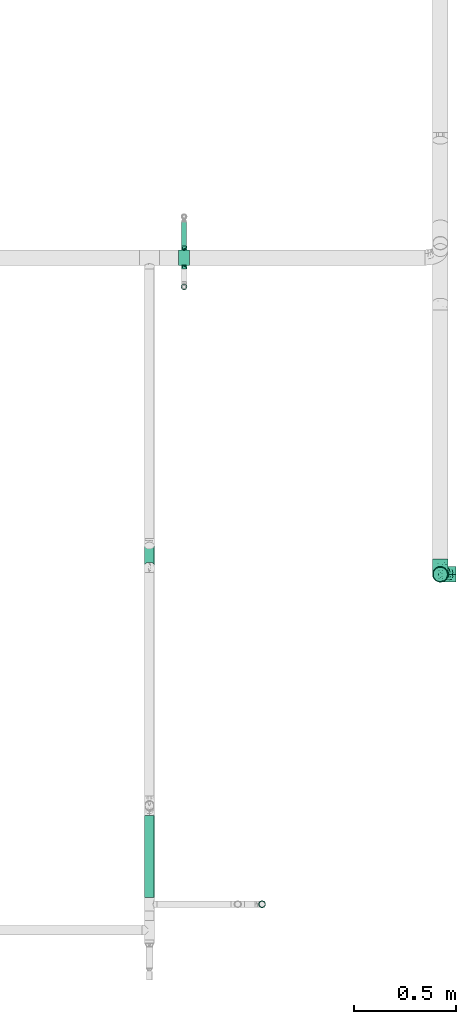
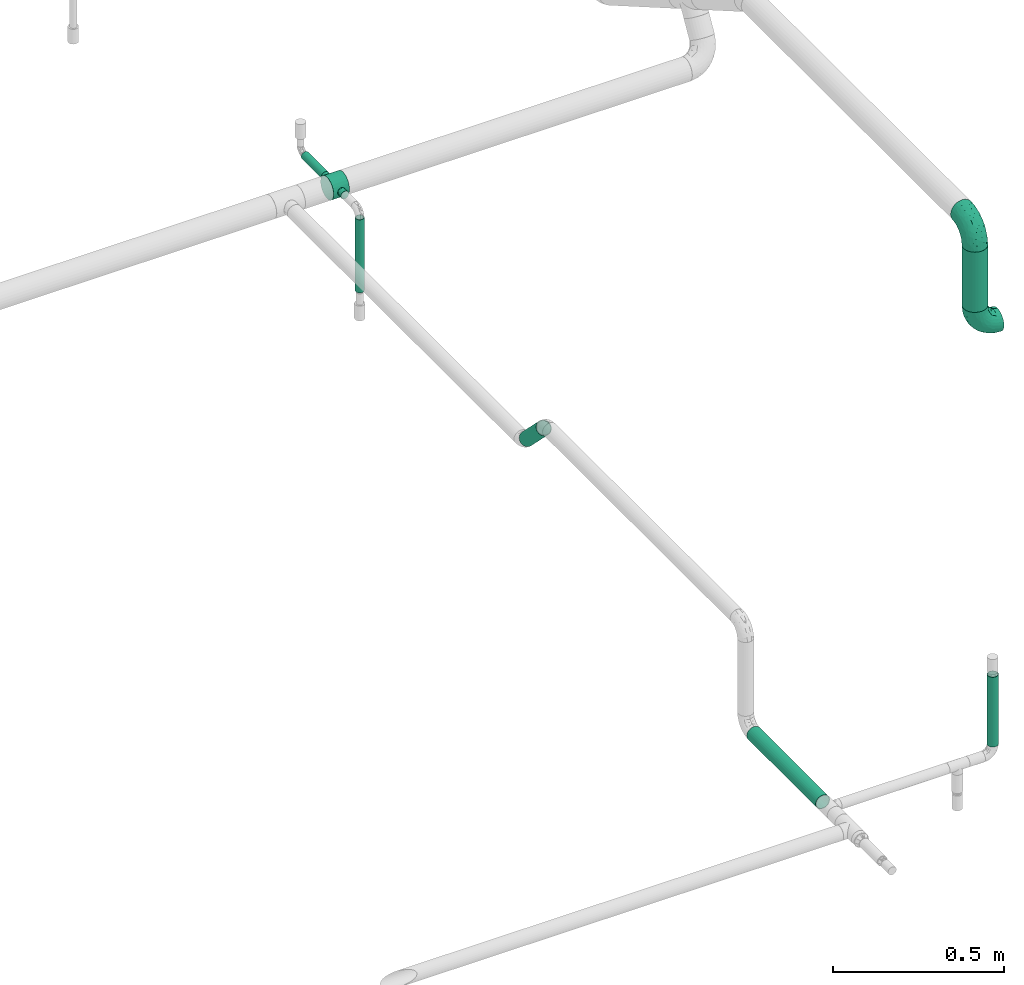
# One storey, part 11 of 51: 6 flow segments, 3 flow fittings.
"""IFC2X3 building model written with IfcOpenShell, lengths in millimetres."""

import ifcopenshell
import ifcopenshell.guid

model = None  # the IFC model being written
_history = None  # IfcOwnerHistory: only IFC2X3 demands one
_inside = {}  # id of a spatial element -> (the spatial element, [elements in it])
_under = {}  # id of a project, library or spatial element -> (it, [spatial elements below it])
_declared = {}  # id of a project -> (the project, [libraries it declares])
_typed = {}  # id of a type object -> (the type object, [elements of that type])
_made_of = {}  # id of a material, layer set ... -> (it, [elements and type objects made of it])


def new_model(schema):
    """Start an empty IFC model of exactly this schema.

    Asked for "IFC4X3", IfcOpenShell would pick the latest addendum, in which some entities
    have other attributes; the version numbers below select the first issue.
    IFC2X3 requires an IfcOwnerHistory on every rooted entity: one is made here for all.
    """
    global model, _history
    if schema == "IFC4X3":
        model = ifcopenshell.file(schema_version=(4, 3, 0, 0))
    else:
        model = ifcopenshell.file(schema=schema)
    _inside.clear()
    _under.clear()
    _declared.clear()
    _typed.clear()
    _made_of.clear()
    _history = None
    if model.schema == "IFC2X3":
        org = make("IfcOrganization", Name="unknown")
        user = make(
            "IfcPersonAndOrganization",
            ThePerson=make("IfcPerson", FamilyName="unknown"),
            TheOrganization=org,
        )
        app = make(
            "IfcApplication",
            ApplicationDeveloper=org,
            Version="unknown",
            ApplicationFullName="unknown",
            ApplicationIdentifier="unknown",
        )
        _history = make(
            "IfcOwnerHistory",
            OwningUser=user,
            OwningApplication=app,
            ChangeAction="ADDED",
            CreationDate=0,
        )
    return model


def make(cls, **values):
    """One entity of the class cls with the attributes given. An attribute that is None is left unset."""
    return model.create_entity(
        cls, **{name: value for name, value in values.items() if value is not None}
    )


def entity(cls, *values):
    """Any entity or typed value of the class cls, its attributes in the order of the schema. None: left unset."""
    e = model.create_entity(cls)
    for i, value in enumerate(values):
        if value is not None:
            e[i] = value
    return e


def rooted(cls, **values):
    """An entity with a GlobalId (a new one), such as an element, a storey or a relation."""
    return make(cls, GlobalId=ifcopenshell.guid.new(), OwnerHistory=_history, **values)


def si_unit(unit_type, name, prefix=None):
    """IfcSIUnit, for example si_unit("LENGTHUNIT", "METRE", prefix="MILLI")."""
    return make("IfcSIUnit", UnitType=unit_type, Prefix=prefix, Name=name)


def converted_unit(unit_type, name, factor, base, dimensions=None, offset=None):
    """IfcConversionBasedUnit, such as the inch: factor (a typed value) times the base unit."""
    return make(
        "IfcConversionBasedUnit"
        if offset is None
        else "IfcConversionBasedUnitWithOffset",
        ConversionOffset=offset,
        Dimensions=None
        if dimensions is None
        else entity("IfcDimensionalExponents", *dimensions),
        UnitType=unit_type,
        Name=name,
        ConversionFactor=make(
            "IfcMeasureWithUnit", ValueComponent=factor, UnitComponent=base
        ),
    )


def derived_unit(unit_type, elements):
    """IfcDerivedUnit: a product of units, each with its exponent."""
    return make(
        "IfcDerivedUnit",
        Elements=[
            make("IfcDerivedUnitElement", Unit=unit, Exponent=power)
            for unit, power in elements
        ],
        UnitType=unit_type,
    )


def assignment(units):
    """IfcUnitAssignment: the units of a project."""
    return None if units is None else make("IfcUnitAssignment", Units=units)


def point(xyz):
    """IfcCartesianPoint."""
    return None if xyz is None else make("IfcCartesianPoint", Coordinates=xyz)


def direction(xyz):
    """IfcDirection."""
    return None if xyz is None else make("IfcDirection", DirectionRatios=xyz)


def frame(location, z_axis=None, x_axis=None):
    """IfcAxis2Placement3D, a coordinate frame: its origin and axes. An axis left out is left unset."""
    return make(
        "IfcAxis2Placement3D",
        Location=point(location),
        Axis=direction(z_axis),
        RefDirection=direction(x_axis),
    )


def frame_2d(location, x_axis=None):
    """IfcAxis2Placement2D, a coordinate frame in the plane: its origin and x axis."""
    return make(
        "IfcAxis2Placement2D", Location=point(location), RefDirection=direction(x_axis)
    )


def origin_with_axes():
    """The frame at (0, 0, 0) with the z axis (0, 0, 1) and the x axis (1, 0, 0) written out."""
    return frame((0.0, 0.0, 0.0), z_axis=(0.0, 0.0, 1.0), x_axis=(1.0, 0.0, 0.0))


def origin_2d_with_axis():
    """The frame at (0, 0) in the plane with the x axis (1, 0) written out."""
    return frame_2d((0.0, 0.0), x_axis=(1.0, 0.0))


def place(relative_to, where):
    """IfcLocalPlacement: puts the frame where relative to a parent placement (None: the world)."""
    return make(
        "IfcLocalPlacement", PlacementRelTo=relative_to, RelativePlacement=where
    )


def context(
    kind, dimensions, precision=None, world=None, true_north=None, identifier=None
):
    """IfcGeometricRepresentationContext, for example the 3D "Model" context."""
    return make(
        "IfcGeometricRepresentationContext",
        ContextIdentifier=identifier,
        ContextType=kind,
        CoordinateSpaceDimension=dimensions,
        Precision=precision,
        WorldCoordinateSystem=world,
        TrueNorth=true_north,
    )


def subcontext(parent, identifier, kind, view, scale=None):
    """IfcGeometricRepresentationSubContext, for example "Body" below "Model"."""
    return make(
        "IfcGeometricRepresentationSubContext",
        ContextIdentifier=identifier,
        ContextType=kind,
        ParentContext=parent,
        TargetScale=scale,
        TargetView=view,
    )


def project(units=None, contexts=None):
    """IfcProject with its units and contexts."""
    return rooted(
        "IfcProject",
        Name="project",
        RepresentationContexts=contexts,
        UnitsInContext=assignment(units),
    )


def spatial(cls, under=None, at=None, **own):
    """A site, building, storey or space (cls), placed at a placement, below another one or the project."""
    s = rooted(cls, ObjectPlacement=at, **own)
    if under is not None:
        _under.setdefault(under.id(), (under, []))[1].append(s)
    return s


def profile(cls, at=None, kind="AREA", **sizes):
    """A parametric profile (cls). Its sizes go by their IFC names, for example OverallWidth=200.0."""
    return make(cls, ProfileType=kind, Position=at, **sizes)


def hollow_circle(**sizes):
    """IfcCircleHollowProfileDef."""
    return profile("IfcCircleHollowProfileDef", **sizes)


def extrude(swept, where, along, depth):
    """IfcExtrudedAreaSolid: the profile swept, set in the frame where, extruded along a direction by depth."""
    return make(
        "IfcExtrudedAreaSolid",
        SweptArea=swept,
        Position=where,
        ExtrudedDirection=direction(along),
        Depth=depth,
    )


def faces_of(points, faces, orient=None, outer=None):
    """IfcFace entities. A face is a list of loops; a loop is a list of indices into points, from 0.

    orient and outer hold one flag for each loop. By default every Orientation is true, the
    first loop of a face is its IfcFaceOuterBound and the others are IfcFaceBound.
    """
    made = []
    for i, loops in enumerate(faces):
        bounds = []
        for j, loop in enumerate(loops):
            is_outer = j == 0 if outer is None else outer[i][j]
            bounds.append(
                make(
                    "IfcFaceOuterBound" if is_outer else "IfcFaceBound",
                    Bound=make("IfcPolyLoop", Polygon=[points[k] for k in loop]),
                    Orientation=True if orient is None else orient[i][j],
                )
            )
        made.append(make("IfcFace", Bounds=bounds))
    return made


def open_shell(faces, orient=None, outer=None):
    """The faces of one IfcOpenShell. surface_model builds it on its shared points."""
    return ("IfcOpenShell", faces, orient, outer)


def surface_model(cls, points, shells):
    """IfcFaceBasedSurfaceModel or IfcShellBasedSurfaceModel (cls): surfaces that need not close."""
    shared = [point(p) for p in points]
    made = [make(c, CfsFaces=faces_of(shared, fs, o, b)) for c, fs, o, b in shells]
    if cls == "IfcFaceBasedSurfaceModel":
        return make(cls, FbsmFaces=made)
    return make(cls, SbsmBoundary=made)


def shape(context_of_items, identifier, shape_type, items):
    """IfcShapeRepresentation: the items that make up one representation, for example the "Body"."""
    return make(
        "IfcShapeRepresentation",
        ContextOfItems=context_of_items,
        RepresentationIdentifier=identifier,
        RepresentationType=shape_type,
        Items=items,
    )


def source(mapping_origin, context_of_items, identifier, shape_type, items):
    """IfcRepresentationMap: a shape defined once, which mapped items show again and again."""
    return make(
        "IfcRepresentationMap",
        MappingOrigin=mapping_origin,
        MappedRepresentation=shape(context_of_items, identifier, shape_type, items),
    )


def transform(
    local_origin,
    x_axis=None,
    y_axis=None,
    z_axis=None,
    scale=None,
    scale2=None,
    scale3=None,
    uniform=True,
):
    """IfcCartesianTransformationOperator3D, or its non-uniform kind. x_axis, y_axis, z_axis: its Axis1, 2, 3."""
    if uniform:
        return make(
            "IfcCartesianTransformationOperator3D",
            Axis1=direction(x_axis),
            Axis2=direction(y_axis),
            LocalOrigin=point(local_origin),
            Scale=scale,
            Axis3=direction(z_axis),
        )
    return make(
        "IfcCartesianTransformationOperator3DnonUniform",
        Axis1=direction(x_axis),
        Axis2=direction(y_axis),
        LocalOrigin=point(local_origin),
        Scale=scale,
        Axis3=direction(z_axis),
        Scale2=scale2,
        Scale3=scale3,
    )


def mapped(mapping_source, mapping_target):
    """IfcMappedItem: shows the shape of a source again, moved by a transform."""
    return make(
        "IfcMappedItem", MappingSource=mapping_source, MappingTarget=mapping_target
    )


def made_of(thing, what):
    """Note that an element or type object is made of a material, layer set ...; save() writes the relation."""
    if what is not None:
        _made_of.setdefault(what.id(), (what, []))[1].append(thing)
    return thing


def type_object(cls, material=None, **own):
    """A type object (cls), such as IfcWallType, which elements share."""
    return made_of(rooted(cls, **own), material)


def element(
    cls,
    number,
    at=None,
    inside=None,
    cuts=None,
    type_object=None,
    material=None,
    context=None,
    identifier="Body",
    shape_type=None,
    held_by="IfcProductDefinitionShape",
    body=None,
    shapes=None,
    **own,
):
    """One element of the class cls, such as IfcWall. Its Tag is "e" and its number.

    at: its placement. inside: the storey or other place that contains it. cuts: it is an
    opening in that element (IfcRelVoidsElement). A single representation is given by context,
    identifier, shape_type and body (its items); several are given by shapes. held_by: the class
    of the entity that holds the representations. save() writes the other relations.
    """
    e = rooted(cls, Tag="e%d" % number, ObjectPlacement=at, **own)
    if body is not None:
        shapes = [shape(context, identifier, shape_type, body)]
    if shapes is not None:
        e.Representation = make(held_by, Representations=shapes)
    if inside is not None:
        _inside.setdefault(inside.id(), (inside, []))[1].append(e)
    if cuts is not None:
        rooted(
            "IfcRelVoidsElement", RelatingBuildingElement=cuts, RelatedOpeningElement=e
        )
    if type_object is not None:
        _typed.setdefault(type_object.id(), (type_object, []))[1].append(e)
    return made_of(e, material)


def aggregate(whole, parts):
    """IfcRelAggregates: a whole, such as a stair, and the parts it consists of."""
    return rooted("IfcRelAggregates", RelatingObject=whole, RelatedObjects=parts)


def save(model, path):
    """Write the relations noted so far, then the file.

    IfcRelAggregates (storeys below a building ...), IfcRelContainedInSpatialStructure (elements
    in a storey), IfcRelDefinesByType, IfcRelAssociatesMaterial and IfcRelDeclares: one each for
    every whole, place, type object, material and project.
    """
    for whole, parts in _under.values():
        aggregate(whole, parts)
    for where, things in _inside.values():
        rooted(
            "IfcRelContainedInSpatialStructure",
            RelatedElements=things,
            RelatingStructure=where,
        )
    for kind, things in _typed.values():
        rooted("IfcRelDefinesByType", RelatedObjects=things, RelatingType=kind)
    for what, things in _made_of.values():
        rooted("IfcRelAssociatesMaterial", RelatedObjects=things, RelatingMaterial=what)
    for by, libraries in _declared.values():
        rooted("IfcRelDeclares", RelatingContext=by, RelatedDefinitions=libraries)
    model.write(path)


model = new_model("IFC2X3")

# Units and contexts
model_context = context("Model", 3, precision=0.01, world=frame((0.0, 4.29681676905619e-09, 0.0)), true_north=direction((4.01073788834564e-13, 1.0)))
plan_context = context("Plan", 3, precision=0.01, world=frame((0.0, 4.29681676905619e-09, 0.0)), true_north=direction((4.01073788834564e-13, 1.0)))
body_context = subcontext(model_context, "Body", "Model", "MODEL_VIEW")
ifc_project = project(units=[converted_unit("PLANEANGLEUNIT", "DEGREE", entity("IfcPositiveLengthMeasure", 0.0174532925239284), si_unit("PLANEANGLEUNIT", "RADIAN"), dimensions=[0, 0, 0, 0, 0, 0, 0]), si_unit("AREAUNIT", "SQUARE_METRE"), si_unit("LENGTHUNIT", "METRE", prefix="MILLI"), si_unit("MASSUNIT", "GRAM", prefix="KILO"), si_unit("POWERUNIT", "WATT"), si_unit("PRESSUREUNIT", "PASCAL"), si_unit("FORCEUNIT", "NEWTON", prefix="KILO"), si_unit("ELECTRICVOLTAGEUNIT", "VOLT"), si_unit("ELECTRICCURRENTUNIT", "AMPERE"), si_unit("THERMODYNAMICTEMPERATUREUNIT", "DEGREE_CELSIUS"), si_unit("TIMEUNIT", "SECOND"), si_unit("VOLUMEUNIT", "CUBIC_METRE"), derived_unit("LINEARVELOCITYUNIT", [(si_unit("LENGTHUNIT", "METRE"), 1), (si_unit("TIMEUNIT", "SECOND"), -1)]), derived_unit("VOLUMETRICFLOWRATEUNIT", [(si_unit("VOLUMEUNIT", "CUBIC_METRE"), 1), (si_unit("TIMEUNIT", "SECOND"), -1)]), derived_unit("THERMALTRANSMITTANCEUNIT", [(si_unit("POWERUNIT", "WATT"), 1), (si_unit("THERMODYNAMICTEMPERATUREUNIT", "KELVIN"), -1), (si_unit("AREAUNIT", "SQUARE_METRE"), -1)]), derived_unit("SOUNDPRESSUREUNIT", [(si_unit("PRESSUREUNIT", "PASCAL"), 1)])], contexts=[model_context, plan_context])

# Site, building, storey
site_placement = place(None, frame((0.0, -4.29681676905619e-09, 0.0), z_axis=(0.0, 0.0, 1.0), x_axis=(1.0, 0.0, 0.0)))
site = spatial("IfcSite", under=ifc_project, at=site_placement, Name="ENGM", CompositionType="ELEMENT")
building_placement = place(site_placement, frame((0.0, 4.29681676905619e-09, 0.0), z_axis=(0.0, 0.0, 1.0), x_axis=(1.0, 0.0, 0.0)))
building = spatial("IfcBuilding", under=site, at=building_placement, Name="TH", CompositionType="ELEMENT")
storey_placement = place(building_placement, frame((0.0, 0.0, 210200.0), z_axis=(0.0, 0.0, 1.0), x_axis=(1.0, 0.0, 0.0)))
storey = spatial("IfcBuildingStorey", under=building, at=storey_placement, Name="Nivå F - 0,7 m", CompositionType="ELEMENT", Elevation=210200.0)

# Flow fittings
pipe_fitting_type_1 = type_object("IfcPipeFittingType", Name="magi_pipe_fe_elbow_short_001", PredefinedType="BEND")
shared_shape_1 = source(origin_with_axes(), body_context, "Body", "SurfaceModel", [
    surface_model("IfcShellBasedSurfaceModel", [(-76.2, 19.05, -32.99557), (-76.2, 9.86101, -36.80177), (-76.2, 0.0, -38.1), (-76.2, 26.94077, -26.94077), (-76.2, 36.80177, -9.86101), (-76.2, 32.99557, -19.05), (-76.2, -26.94077, -26.94077), (-76.2, -36.80177, -9.86101), (-76.2, -19.05, -32.99557), (-76.2, -9.86101, -36.80177), (-76.2, -32.99557, -19.05), (-76.2, -38.1, 0.0), (-76.2, -36.80177, 9.86101), (-76.2, 26.94077, 26.94077), (-76.2, 36.80177, 9.86101), (-76.2, 32.99557, 19.05), (-76.2, 9.86101, 36.80177), (-76.2, 19.05, 32.99557), (-76.2, 0.0, 38.1), (-76.2, -32.99557, 19.05), (-76.2, -26.94077, 26.94077), (-76.2, -9.86101, 36.80177), (-76.2, -19.05, 32.99557), (-76.2, 38.1, 0.0), (0.0, 76.2, -38.1), (-9.86101, 76.2, -36.80177), (-19.05, 76.2, -32.99557), (-26.94077, 76.2, -26.94077), (-32.99557, 76.2, -19.05), (-36.80177, 76.2, -9.86101), (26.94077, 76.2, -26.94077), (36.80177, 76.2, -9.86101), (9.86101, 76.2, -36.80177), (19.05, 76.2, -32.99557), (32.99557, 76.2, -19.05), (36.80177, 76.2, 9.86101), (38.1, 76.2, 0.0), (-36.80177, 76.2, 9.86101), (-26.94077, 76.2, 26.94077), (-32.99557, 76.2, 19.05), (-19.05, 76.2, 32.99557), (-9.86101, 76.2, 36.80177), (0.0, 76.2, 38.1), (26.94077, 76.2, 26.94077), (32.99557, 76.2, 19.05), (9.86101, 76.2, 36.80177), (19.05, 76.2, 32.99557), (-38.1, 76.2, 0.0), (-51.47253, -33.41495, 11.97429), (-55.87921, -29.59735, 21.38675), (-40.87936, -32.50576, 0.0), (-57.46182, -35.13216, 0.0), (-9.7569, -13.15819, 14.69187), (-2.65186, -10.17769, 8.01257), (2.20082, -2.20082, 15.78668), (-58.2046, -5.04721, 37.4484), (-53.35237, 5.84022, 38.03506), (13.01533, 9.30417, 14.3119), (23.26567, 31.00373, 18.95093), (8.92292, 13.82363, 24.31711), (-37.93212, -0.34191, 36.92855), (-55.73356, -14.37507, 34.26516), (-29.5907, -8.99996, 31.84562), (-48.87429, -21.76577, 28.30344), (-34.13735, -29.20196, 7.83838), (-24.94775, -24.3882, 0.0), (-13.82363, -8.92292, 24.31711), (-6.80575, 6.80575, 31.14998), (-37.24299, 60.80967, 16.55959), (-31.82754, 59.31737, 25.03043), (-14.22204, 65.71998, 35.68746), (-5.22176, 56.99222, 38.00642), (-58.73143, 14.94265, 35.9909), (-9.94517, 25.51838, 37.4103), (-18.93111, 6.98952, 35.57772), (-3.89226, 20.58438, 35.01344), (-65.91802, 23.07271, 31.04479), (-13.24152, 37.4675, 38.03164), (-28.22122, 28.22122, 37.17425), (-22.68668, 16.64938, 37.90374), (-60.23482, 40.58212, 8.37688), (-60.8286, 37.23683, 16.55705), (-47.30619, 47.30619, 14.2421), (-59.55922, 31.76102, 25.00381), (21.76577, 48.87429, 28.30344), (-39.51357, 50.50487, 21.56421), (14.37507, 55.73356, 34.26516), (29.59735, 55.87921, 21.38675), (33.41495, 51.47253, 11.97429), (-9.01615, -16.27064, 0.0), (-18.50075, -20.95742, 9.87146), (5.04721, 58.2046, 37.4484), (-41.86713, 16.32002, 37.41817), (-37.38612, 9.33613, 38.08374), (24.3882, 24.94775, 0.0), (29.20196, 34.13735, 7.83838), (20.95742, 18.50075, 9.87146), (35.13216, 57.46182, 0.0), (-40.50473, 25.85184, 35.24027), (-31.00373, -23.26567, 18.95093), (-27.62233, 49.24446, 32.02197), (-23.27638, 63.88751, 31.20285), (-40.10509, 61.46399, 8.17366), (-47.75011, 49.97248, 6.70535), (17.55292, 30.69115, 25.82241), (8.99996, 29.5907, 31.84562), (-43.20443, 57.15, 0.0), (-35.27088, 40.23417, 31.3068), (-52.46543, 25.86294, 32.08413), (-0.58232, 0.58231, 22.50977), (-21.74145, 39.43998, 36.62577), (-30.35377, 36.8865, 34.66668), (-16.47755, 51.62643, 36.28492), (-40.16133, 42.54966, 26.98796), (-48.93373, 40.93898, 21.24545), (0.34191, 37.93212, 36.92855), (-30.54899, -16.70018, 26.56572), (10.38979, 2.76708, 7.59679), (32.50576, 40.87936, 0.0), (16.27064, 9.01615, 0.0), (-57.15, 43.20443, 0.0), (3.62725, -3.62725, 0.0), (-56.18403, 32.81229, -25.37784), (-60.79374, 37.24818, -16.56172), (-31.12583, -9.61531, -31.96506), (-33.08389, -0.47526, -36.23756), (-15.30809, -0.63756, -31.219), (-60.31522, 4.8175, -37.976), (-55.58208, -34.10815, -12.42093), (-47.87166, -28.25416, -20.6363), (-36.35476, -28.57081, -12.78243), (-55.4317, 15.55274, -36.12913), (-41.97308, 9.00674, -38.09177), (-32.8123, 56.18403, -25.37784), (-61.68117, 39.97816, -8.33686), (-23.91371, 59.81378, -31.51803), (-15.55274, 55.4317, -36.12913), (-48.48008, 48.48008, -9.09668), (22.76239, 55.12076, -28.76608), (13.14871, 48.24989, -33.88525), (15.02018, 64.34702, -34.67535), (-7.42295, -13.4022, -10.03386), (-7.53093, -9.8797, -17.36177), (4.09889, -3.23385, -10.05311), (-22.23209, 20.60173, -38.07837), (-36.11879, 22.54399, -36.96599), (-59.81378, 23.91371, -31.51803), (-64.14494, -30.32973, -22.13621), (-37.06617, 43.2809, -28.69704), (-35.21221, 35.21221, -33.45314), (-46.56802, 32.18433, -30.26847), (3.32253, -0.70027, -16.3296), (-55.12076, -22.76239, -28.76608), (28.25416, 47.87166, -20.6363), (34.10815, 55.58208, -12.42093), (28.57081, 36.35476, -12.78243), (-64.34702, -15.02018, -34.67535), (4.80394, 56.13349, -37.40338), (-24.08639, -18.54476, -20.78452), (-28.44745, -15.54194, -26.65272), (-13.81153, -9.41447, -23.82138), (-41.58053, -17.39667, -29.91543), (-48.24989, -13.14871, -33.88525), (-56.1335, -4.80394, -37.40338), (-28.5499, 46.87201, -32.27447), (-39.97816, 61.68117, -8.33686), (-4.8175, 60.31522, -37.976), (-13.45022, 13.45022, -35.97664), (0.47526, 33.08389, -36.23756), (1.60394, 17.89715, -31.77365), (-37.24818, 60.79374, -16.56172), (-45.75928, 45.75928, -18.77942), (30.32973, 64.14494, -22.13621), (22.08018, 30.6107, -20.46174), (12.28189, 14.44402, -21.13272), (15.54194, 28.44745, -26.65272), (7.87454, 32.5264, -33.28409), (-9.00674, 41.97308, -38.09177), (-46.32128, 24.51975, -34.33978), (-22.71812, 37.0764, -36.7817), (-0.36118, 0.36118, -22.07635), (-17.64772, -21.30183, -6.55407), (19.53658, 18.92928, -14.18962), (21.30183, 17.64772, -6.55407), (4.4885, 11.61303, -26.72553), (-18.92929, -19.53658, -14.18962)], [open_shell([[[0, 1, 2]], [[3, 0, 2]], [[4, 5, 3]], [[6, 3, 2]], [[4, 3, 7]], [[8, 6, 9]], [[6, 2, 9]], [[10, 7, 6]], [[6, 7, 3]], [[11, 12, 7]], [[12, 4, 7]], [[13, 14, 4]], [[15, 14, 13]], [[16, 17, 13]], [[4, 12, 13]], [[13, 18, 16]], [[19, 20, 12]], [[21, 12, 20]], [[22, 21, 20]], [[21, 13, 12]], [[21, 18, 13]], [[23, 4, 14]], [[24, 25, 26]], [[24, 26, 27]], [[27, 28, 29]], [[24, 27, 30]], [[31, 27, 29]], [[32, 30, 33]], [[32, 24, 30]], [[30, 31, 34]], [[27, 31, 30]], [[31, 35, 36]], [[31, 29, 35]], [[29, 37, 38]], [[38, 37, 39]], [[38, 40, 41]], [[29, 38, 35]], [[42, 38, 41]], [[35, 43, 44]], [[43, 35, 45]], [[43, 45, 46]], [[35, 38, 45]], [[38, 42, 45]], [[37, 29, 47]], [[48, 49, 19]], [[50, 48, 51]], [[52, 53, 54]], [[12, 48, 19]], [[12, 51, 48]], [[18, 55, 56]], [[19, 49, 20]], [[57, 58, 59]], [[60, 61, 62]], [[63, 22, 20]], [[63, 61, 22]], [[64, 50, 65]], [[62, 66, 67]], [[39, 68, 69]], [[41, 70, 71]], [[16, 72, 17]], [[73, 74, 75]], [[17, 76, 13]], [[21, 55, 18]], [[77, 78, 79]], [[80, 81, 82]], [[15, 83, 81]], [[84, 43, 46]], [[23, 14, 80]], [[14, 15, 81]], [[68, 85, 69]], [[83, 15, 13]], [[18, 56, 16]], [[46, 86, 84]], [[13, 76, 83]], [[87, 58, 88]], [[39, 37, 68]], [[89, 90, 65]], [[42, 91, 45]], [[65, 90, 64]], [[42, 41, 71]], [[92, 93, 79]], [[88, 35, 44]], [[44, 43, 87]], [[87, 88, 44]], [[94, 95, 96]], [[88, 97, 35]], [[98, 72, 92]], [[49, 99, 63]], [[69, 100, 101]], [[82, 102, 103]], [[104, 105, 59]], [[106, 102, 47]], [[98, 107, 108]], [[102, 82, 68]], [[86, 46, 45]], [[69, 38, 39]], [[109, 54, 57]], [[110, 100, 111]], [[22, 61, 21]], [[101, 40, 38]], [[70, 41, 40]], [[112, 77, 71]], [[84, 86, 105]], [[96, 95, 58]], [[100, 69, 113]], [[72, 16, 56]], [[108, 113, 83]], [[81, 114, 82]], [[112, 110, 77]], [[91, 71, 115]], [[62, 61, 63]], [[55, 61, 60]], [[116, 99, 66]], [[74, 62, 67]], [[91, 86, 45]], [[105, 86, 115]], [[75, 105, 115]], [[109, 67, 66]], [[59, 105, 67]], [[48, 64, 99]], [[99, 49, 48]], [[63, 20, 49]], [[43, 84, 87]], [[58, 87, 84]], [[92, 72, 56]], [[76, 72, 108]], [[102, 68, 37]], [[82, 114, 85]], [[98, 111, 107]], [[112, 70, 101]], [[114, 83, 113]], [[82, 103, 80]], [[92, 79, 78]], [[115, 71, 77]], [[74, 79, 60]], [[77, 79, 73]], [[71, 91, 42]], [[86, 91, 115]], [[61, 55, 21]], [[56, 55, 60]], [[57, 54, 117]], [[104, 59, 58]], [[116, 66, 62]], [[52, 99, 90]], [[12, 11, 51]], [[97, 88, 118]], [[97, 36, 35]], [[53, 90, 89]], [[90, 53, 52]], [[94, 96, 119]], [[88, 95, 118]], [[117, 54, 53]], [[92, 56, 93]], [[98, 92, 78]], [[111, 98, 78]], [[72, 98, 108]], [[110, 111, 78]], [[107, 111, 100]], [[47, 102, 37]], [[102, 106, 103]], [[106, 120, 103]], [[103, 120, 80]], [[23, 80, 120]], [[14, 81, 80]], [[56, 60, 93]], [[60, 79, 93]], [[117, 121, 119]], [[121, 117, 53]], [[53, 89, 121]], [[119, 96, 117]], [[117, 96, 57]], [[77, 110, 78]], [[100, 110, 112]], [[83, 114, 81]], [[85, 114, 113]], [[69, 85, 113]], [[82, 85, 68]], [[109, 52, 54]], [[99, 52, 66]], [[69, 101, 38]], [[112, 101, 100]], [[100, 113, 107]], [[108, 107, 113]], [[62, 74, 60]], [[75, 74, 67]], [[105, 75, 67]], [[73, 75, 115]], [[77, 73, 115]], [[74, 73, 79]], [[99, 64, 90]], [[50, 64, 48]], [[118, 95, 94]], [[58, 95, 88]], [[58, 57, 96]], [[109, 57, 59]], [[72, 76, 17]], [[83, 76, 108]], [[101, 70, 40]], [[71, 70, 112]], [[58, 84, 104]], [[105, 104, 84]], [[67, 109, 59]], [[52, 109, 66]], [[62, 63, 116]], [[99, 116, 63]], [[122, 5, 123]], [[124, 125, 126]], [[2, 1, 127]], [[128, 129, 130]], [[127, 131, 132]], [[28, 27, 133]], [[120, 134, 23]], [[135, 26, 136]], [[123, 134, 137]], [[138, 139, 140]], [[122, 3, 5]], [[141, 142, 143]], [[144, 132, 145]], [[131, 0, 146]], [[128, 10, 147]], [[148, 149, 150]], [[128, 51, 7]], [[142, 151, 143]], [[152, 6, 8]], [[153, 154, 155]], [[156, 152, 8]], [[32, 157, 24]], [[158, 159, 160]], [[147, 10, 6]], [[129, 152, 161]], [[156, 8, 9]], [[162, 163, 125]], [[154, 34, 31]], [[120, 106, 137]], [[149, 148, 164]], [[47, 29, 165]], [[163, 9, 2]], [[5, 4, 123]], [[25, 166, 136]], [[167, 168, 169]], [[170, 133, 171]], [[25, 24, 166]], [[33, 30, 138]], [[157, 32, 140]], [[29, 28, 170]], [[30, 34, 172]], [[26, 135, 27]], [[132, 131, 145]], [[32, 33, 140]], [[173, 174, 175]], [[169, 168, 176]], [[25, 136, 26]], [[175, 138, 173]], [[168, 177, 157]], [[163, 162, 156]], [[153, 172, 154]], [[10, 128, 7]], [[154, 97, 118]], [[131, 178, 145]], [[0, 3, 146]], [[175, 139, 138]], [[155, 118, 94]], [[131, 1, 0]], [[146, 178, 131]], [[170, 137, 165]], [[149, 179, 145]], [[171, 133, 148]], [[160, 180, 142]], [[65, 181, 89]], [[170, 165, 29]], [[137, 171, 123]], [[172, 138, 30]], [[138, 153, 173]], [[168, 157, 139]], [[166, 157, 177]], [[176, 175, 169]], [[168, 167, 144]], [[154, 31, 97]], [[155, 182, 173]], [[162, 124, 161]], [[147, 152, 129]], [[127, 163, 2]], [[132, 144, 125]], [[132, 125, 163]], [[125, 167, 126]], [[129, 158, 130]], [[31, 36, 97]], [[143, 182, 183]], [[169, 126, 167]], [[3, 122, 146]], [[178, 150, 149]], [[136, 179, 164]], [[133, 27, 135]], [[123, 4, 134]], [[122, 123, 171]], [[133, 170, 28]], [[137, 170, 171]], [[184, 175, 174]], [[180, 160, 126]], [[126, 169, 184]], [[126, 159, 124]], [[51, 128, 50]], [[51, 11, 7]], [[131, 127, 1]], [[163, 127, 132]], [[157, 166, 24]], [[136, 166, 177]], [[164, 179, 149]], [[144, 167, 125]], [[179, 144, 145]], [[168, 144, 177]], [[136, 177, 179]], [[144, 179, 177]], [[141, 121, 89]], [[89, 181, 141]], [[154, 118, 155]], [[183, 155, 94]], [[143, 183, 119]], [[119, 183, 94]], [[155, 183, 182]], [[181, 130, 185]], [[50, 128, 130]], [[130, 181, 65]], [[50, 130, 65]], [[141, 181, 185]], [[142, 141, 185]], [[143, 121, 141]], [[158, 160, 142]], [[142, 180, 151]], [[158, 142, 185]], [[126, 160, 159]], [[130, 158, 185]], [[129, 159, 158]], [[23, 134, 4]], [[120, 137, 134]], [[137, 106, 165]], [[47, 165, 106]], [[174, 151, 180]], [[182, 143, 151]], [[150, 146, 122]], [[149, 145, 178]], [[146, 150, 178]], [[122, 171, 148]], [[148, 150, 122]], [[164, 133, 135]], [[133, 164, 148]], [[164, 135, 136]], [[138, 140, 33]], [[157, 140, 139]], [[154, 172, 34]], [[138, 172, 153]], [[163, 156, 9]], [[152, 156, 162]], [[152, 147, 6]], [[128, 147, 129]], [[155, 173, 153]], [[174, 173, 182]], [[151, 174, 182]], [[174, 180, 184]], [[126, 184, 180]], [[175, 184, 169]], [[168, 139, 176]], [[175, 176, 139]], [[161, 124, 159]], [[125, 124, 162]], [[129, 161, 159]], [[162, 161, 152]], [[143, 119, 121]]])]),
])
for number, where, z_axis, x_axis, name in (
    (1, (910379.87531, 482771.97183, 3300.0337), (1.0, 0.0, 0.0), (0.0, -1.0, 0.0), "magi_pipe_fe_elbow_short_001"),
    (2, (910379.87531, 482771.97183, 2933.0), (0.0, -1.0, 0.0), (0.0, 0.0, -1.0), "magi_pipe_fe_elbow_short_001"),
):
    element("IfcFlowFitting", number, at=place(storey_placement, frame(where, z_axis=z_axis, x_axis=x_axis)), inside=storey, type_object=pipe_fitting_type_1, Name=name, context=body_context, shape_type="MappedRepresentation", body=[
        mapped(shared_shape_1, transform((0.0, 0.0, 0.0), scale=1.0)),
    ])
pipe_fitting_type_2 = type_object("IfcPipeFittingType", Name="magi_pipe_fe_cross_centric_90_001", PredefinedType="JUNCTION")
shared_shape_2 = source(origin_with_axes(), body_context, "Body", "SurfaceModel", [
    surface_model("IfcShellBasedSurfaceModel", [(-26.8, 19.05, -32.99557), (-26.8, 9.86101, -36.80177), (-26.8, 0.0, -38.1), (-26.8, 26.94077, -26.94077), (-26.8, 36.80177, -9.86101), (-26.8, 32.99557, -19.05), (-26.8, -36.80177, 9.86101), (-26.8, -38.1, 0.0), (-26.8, -19.05, -32.99557), (-26.8, -26.94077, -26.94077), (-26.8, -9.86101, -36.80177), (-26.8, -36.80177, -9.86101), (-26.8, -32.99557, -19.05), (-26.8, 38.1, 0.0), (-26.8, 32.99557, 19.05), (-26.8, 36.80177, 9.86101), (-26.8, 19.05, 32.99557), (-26.8, 26.94077, 26.94077), (-26.8, 0.0, 38.1), (-26.8, 9.86101, 36.80177), (-26.8, -26.94077, 26.94077), (-26.8, -32.99557, 19.05), (-26.8, -9.86101, 36.80177), (-26.8, -19.05, 32.99557), (26.8, 0.0, -38.1), (26.8, 9.86101, -36.80177), (26.8, 19.05, -32.99557), (26.8, 26.94077, -26.94077), (26.8, 32.99557, -19.05), (26.8, 36.80177, -9.86101), (26.8, -26.94077, -26.94077), (26.8, -38.1, 0.0), (26.8, -9.86101, -36.80177), (26.8, -19.05, -32.99557), (26.8, -32.99557, -19.05), (26.8, -36.80177, -9.86101), (26.8, 36.80177, 9.86101), (26.8, 32.99557, 19.05), (26.8, 19.05, 32.99557), (26.8, 0.0, 38.1), (26.8, 26.94077, 26.94077), (26.8, 9.86101, 36.80177), (26.8, -32.99557, 19.05), (26.8, -26.94077, 26.94077), (26.8, -36.80177, 9.86101), (26.8, -19.05, 32.99557), (26.8, -9.86101, 36.80177), (26.8, 38.1, 0.0), (10.25617, -37.11117, 8.62386), (26.8, -37.45089, 4.9305), (12.58238, -37.82018, 4.60909), (13.4, -38.1, 0.0), (6.72002, -36.29337, 11.59316), (2.34178, -35.74261, 13.19379), (-12.58238, 37.82018, 4.60909), (-26.8, 37.45089, 4.9305), (-10.25983, -37.11218, 8.6195), (-6.72112, -36.29357, 11.59252), (-26.8, -37.45089, 4.9305), (-13.4, -38.1, 0.0), (-12.58273, -37.8203, 4.60814), (-2.34536, -35.74284, 13.19315), (12.58273, 37.8203, 4.60814), (26.8, 37.45089, 4.9305), (13.4, 38.1, 0.0), (10.25983, 37.11218, 8.6195), (6.72112, 36.29357, 11.59252), (2.34536, 35.74284, 13.19315), (-2.34178, 35.74261, 13.19379), (-6.72002, 36.29337, 11.59316), (-10.25617, 37.11117, 8.62386), (-13.4, 38.1, 0.0), (10.25983, 37.11218, -8.6195), (26.8, 37.45089, -4.9305), (12.58273, 37.8203, -4.60814), (6.72112, 36.29357, -11.59252), (-10.25617, 37.11117, -8.62386), (-26.8, 37.45089, -4.9305), (-12.58238, 37.82018, -4.60909), (2.34536, 35.74284, -13.19315), (-2.34178, 35.74261, -13.19379), (-6.72002, 36.29337, -11.59316), (-12.58273, -37.8203, -4.60814), (-26.8, -37.45089, -4.9305), (10.25617, -37.11117, -8.62386), (26.8, -37.45089, -4.9305), (12.58238, -37.82018, -4.60909), (6.72002, -36.29337, -11.59316), (2.34178, -35.74261, -13.19379), (-2.34536, -35.74284, -13.19315), (-6.72112, -36.29357, -11.59252), (-10.25983, -37.11218, -8.6195), (9.47523, -57.15, -9.47523), (0.0, -57.15, -13.4), (3.46818, -57.15, -12.94341), (6.7, -57.15, -11.60474), (11.60474, -57.15, -6.7), (12.94341, -57.15, -3.46818), (-12.94341, -57.15, 3.46818), (-12.94341, -57.15, -3.46818), (-3.46818, -57.15, -12.94341), (-9.47523, -57.15, -9.47523), (-6.7, -57.15, -11.60474), (-11.60474, -57.15, -6.7), (-13.4, -57.15, 0.0), (13.4, -57.15, 0.0), (12.94341, -57.15, 3.46818), (11.60474, -57.15, 6.7), (6.7, -57.15, 11.60474), (9.47523, -57.15, 9.47523), (3.46818, -57.15, 12.94341), (-9.47523, -57.15, 9.47523), (-11.60474, -57.15, 6.7), (-6.7, -57.15, 11.60474), (-3.46818, -57.15, 12.94341), (0.0, -57.15, 13.4), (-12.99136, -37.96015, 2.30407), (-4.53324, -36.01821, 12.39284), (-0.00179, -35.74272, 13.19347), (4.5309, -36.01799, 12.39347), (12.99119, -37.96009, 2.30455), (12.99119, -37.96009, -2.30455), (-12.99136, -37.96015, -2.30407), (4.5309, -36.01799, -12.39347), (-0.00179, -35.74272, -13.19347), (-4.53324, -36.01821, -12.39284), (0.0, 57.15, -13.4), (-3.46818, 57.15, -12.94341), (-6.7, 57.15, -11.60474), (-9.47523, 57.15, -9.47523), (-11.60474, 57.15, -6.7), (-12.94341, 57.15, -3.46818), (11.60474, 57.15, -6.7), (12.94341, 57.15, 3.46818), (12.94341, 57.15, -3.46818), (3.46818, 57.15, -12.94341), (9.47523, 57.15, -9.47523), (6.7, 57.15, -11.60474), (13.4, 57.15, 0.0), (-13.4, 57.15, 0.0), (-12.94341, 57.15, 3.46818), (-11.60474, 57.15, 6.7), (-6.7, 57.15, 11.60474), (-9.47523, 57.15, 9.47523), (0.0, 57.15, 13.4), (-3.46818, 57.15, 12.94341), (11.60474, 57.15, 6.7), (6.7, 57.15, 11.60474), (9.47523, 57.15, 9.47523), (3.46818, 57.15, 12.94341), (12.99136, 37.96015, 2.30407), (4.53324, 36.01821, 12.39284), (0.00179, 35.74272, 13.19347), (-4.5309, 36.01799, 12.39347), (-12.99119, 37.96009, 2.30455), (-12.99119, 37.96009, -2.30455), (12.99136, 37.96015, -2.30407), (-4.5309, 36.01799, -12.39347), (0.00179, 35.74272, -13.19347), (4.53324, 36.01821, -12.39284)], [open_shell([[[0, 1, 2]], [[3, 0, 2]], [[4, 5, 3]], [[6, 2, 7]], [[2, 6, 3]], [[8, 9, 10]], [[7, 10, 9]], [[11, 7, 12]], [[9, 12, 7]], [[7, 2, 10]], [[13, 4, 3]], [[14, 15, 13]], [[14, 13, 6]], [[6, 16, 14]], [[17, 14, 16]], [[16, 18, 19]], [[20, 18, 21]], [[6, 21, 18]], [[22, 18, 23]], [[20, 23, 18]], [[18, 16, 6]], [[3, 6, 13]], [[24, 25, 26]], [[24, 26, 27]], [[27, 28, 29]], [[24, 27, 30]], [[31, 27, 29]], [[32, 30, 33]], [[32, 24, 30]], [[34, 31, 35]], [[31, 34, 30]], [[27, 31, 30]], [[29, 36, 31]], [[36, 37, 31]], [[31, 37, 38]], [[38, 39, 31]], [[38, 37, 40]], [[39, 38, 41]], [[42, 39, 43]], [[44, 31, 42]], [[45, 39, 46]], [[39, 45, 43]], [[39, 42, 31]], [[36, 29, 47]], [[44, 48, 49]], [[50, 51, 31]], [[50, 49, 48]], [[44, 52, 48]], [[43, 20, 42]], [[45, 23, 43]], [[52, 42, 53]], [[42, 52, 44]], [[21, 53, 42]], [[45, 46, 22]], [[54, 13, 55]], [[56, 57, 6]], [[56, 6, 58]], [[59, 60, 7]], [[7, 60, 58]], [[57, 21, 6]], [[53, 21, 61]], [[42, 20, 21]], [[61, 21, 57]], [[23, 20, 43]], [[45, 22, 23]], [[46, 18, 22]], [[50, 31, 49]], [[46, 39, 18]], [[40, 17, 38]], [[41, 19, 39]], [[41, 38, 16]], [[14, 40, 37]], [[62, 63, 47]], [[62, 47, 64]], [[65, 66, 36]], [[65, 36, 63]], [[36, 66, 37]], [[67, 37, 66]], [[19, 41, 16]], [[68, 37, 67]], [[56, 58, 60]], [[37, 68, 14]], [[17, 16, 38]], [[40, 14, 17]], [[68, 69, 14]], [[65, 63, 62]], [[54, 55, 70]], [[69, 70, 15]], [[55, 15, 70]], [[13, 54, 71]], [[69, 15, 14]], [[39, 19, 18]], [[29, 72, 73]], [[74, 64, 47]], [[74, 73, 72]], [[29, 75, 72]], [[76, 77, 78]], [[79, 28, 80]], [[28, 79, 75]], [[27, 5, 28]], [[26, 3, 27]], [[26, 25, 0]], [[28, 75, 29]], [[76, 81, 4]], [[76, 4, 77]], [[71, 78, 13]], [[13, 78, 77]], [[81, 5, 4]], [[0, 3, 26]], [[25, 1, 0]], [[82, 7, 83]], [[3, 5, 27]], [[5, 80, 28]], [[84, 85, 86]], [[25, 2, 1]], [[80, 5, 81]], [[74, 47, 73]], [[25, 24, 2]], [[30, 9, 33]], [[32, 10, 24]], [[32, 33, 8]], [[12, 30, 34]], [[86, 85, 31]], [[86, 31, 51]], [[84, 87, 35]], [[84, 35, 85]], [[35, 87, 34]], [[88, 34, 87]], [[10, 32, 8]], [[88, 12, 34]], [[12, 88, 89]], [[9, 8, 33]], [[30, 12, 9]], [[89, 90, 12]], [[82, 83, 91]], [[90, 91, 11]], [[83, 11, 91]], [[7, 82, 59]], [[90, 11, 12]], [[24, 10, 2]], [[92, 93, 94]], [[92, 94, 95]], [[92, 96, 97]], [[93, 92, 98]], [[98, 99, 93]], [[100, 101, 102]], [[100, 93, 101]], [[103, 101, 93]], [[93, 99, 103]], [[99, 98, 104]], [[98, 92, 97]], [[105, 106, 107]], [[107, 108, 97]], [[108, 98, 97]], [[108, 107, 109]], [[98, 108, 110]], [[98, 111, 112]], [[111, 98, 113]], [[98, 114, 113]], [[114, 98, 115]], [[98, 110, 115]], [[97, 105, 107]], [[98, 116, 104]], [[56, 112, 111]], [[98, 112, 60]], [[111, 113, 57]], [[116, 59, 104]], [[60, 112, 56]], [[114, 61, 117]], [[57, 56, 111]], [[115, 53, 118]], [[108, 119, 110]], [[120, 105, 51]], [[117, 113, 114]], [[117, 57, 113]], [[52, 108, 109]], [[98, 60, 116]], [[50, 107, 106]], [[120, 50, 106]], [[107, 48, 109]], [[115, 61, 114]], [[110, 119, 53]], [[53, 115, 110]], [[52, 119, 108]], [[52, 109, 48]], [[48, 107, 50]], [[105, 120, 106]], [[118, 61, 115]], [[97, 121, 105]], [[84, 96, 92]], [[122, 104, 59]], [[96, 86, 97]], [[95, 87, 92]], [[121, 51, 105]], [[86, 96, 84]], [[94, 88, 123]], [[87, 84, 92]], [[93, 89, 124]], [[102, 125, 100]], [[123, 87, 95]], [[123, 95, 94]], [[97, 86, 121]], [[90, 102, 101]], [[102, 90, 125]], [[82, 103, 99]], [[103, 91, 101]], [[93, 88, 94]], [[89, 93, 100]], [[125, 89, 100]], [[124, 88, 93]], [[90, 101, 91]], [[91, 103, 82]], [[104, 122, 99]], [[122, 82, 99]], [[126, 127, 128]], [[126, 128, 129]], [[129, 130, 131]], [[126, 129, 132]], [[129, 133, 134]], [[135, 136, 137]], [[136, 135, 132]], [[126, 132, 135]], [[129, 134, 132]], [[134, 133, 138]], [[129, 131, 133]], [[139, 140, 141]], [[139, 141, 142]], [[139, 142, 133]], [[142, 141, 143]], [[144, 142, 145]], [[146, 147, 148]], [[144, 146, 133]], [[146, 149, 147]], [[149, 146, 144]], [[133, 142, 144]], [[139, 133, 131]], [[133, 150, 138]], [[65, 146, 148]], [[133, 146, 62]], [[148, 147, 66]], [[150, 64, 138]], [[62, 146, 65]], [[149, 67, 151]], [[66, 65, 148]], [[144, 68, 152]], [[142, 153, 145]], [[154, 139, 71]], [[151, 147, 149]], [[151, 66, 147]], [[69, 142, 143]], [[133, 62, 150]], [[54, 141, 140]], [[154, 54, 140]], [[141, 70, 143]], [[144, 67, 149]], [[145, 153, 68]], [[68, 144, 145]], [[69, 153, 142]], [[69, 143, 70]], [[70, 141, 54]], [[139, 154, 140]], [[152, 67, 144]], [[131, 155, 139]], [[76, 130, 129]], [[156, 138, 64]], [[130, 78, 131]], [[128, 81, 129]], [[155, 71, 139]], [[78, 130, 76]], [[127, 80, 157]], [[81, 76, 129]], [[126, 79, 158]], [[137, 159, 135]], [[157, 81, 128]], [[157, 128, 127]], [[131, 78, 155]], [[75, 137, 136]], [[137, 75, 159]], [[74, 132, 134]], [[132, 72, 136]], [[126, 80, 127]], [[79, 126, 135]], [[159, 79, 135]], [[158, 80, 126]], [[75, 136, 72]], [[72, 132, 74]], [[138, 156, 134]], [[156, 74, 134]]])]),
])
flow_fitting_placement = place(storey_placement, frame((909120.0, 484329.45519, 2933.0), z_axis=(0.0, 0.0, 1.0), x_axis=(-1.0, 0.0, 0.0)))
element("IfcFlowFitting", 3, at=flow_fitting_placement, inside=storey, type_object=pipe_fitting_type_2, Name="magi_pipe_fe_cross_centric_90_001", context=body_context, shape_type="MappedRepresentation", body=[
    mapped(shared_shape_2, transform((0.0, 0.0, 0.0), scale=1.0)),
])

# Flow segments
pipe_segment_type = type_object("IfcPipeSegmentType", Name="Stålrør normaltykke", PredefinedType="RIGIDSEGMENT")
shared_shape_3 = source(origin_with_axes(), body_context, "Body", "SweptSolid", [
    extrude(hollow_circle(Radius=24.1, WallThickness=2.0, at=origin_2d_with_axis()), frame((0.0, 0.0, 0.0), z_axis=(1.0, 0.0, 0.0), x_axis=(0.0, 1.0, 0.0)), (0.0, 0.0, 1.0), 139.5),
])
flow_segment_1_placement = place(storey_placement, frame((908949.82472, 482913.3358, 2947.17603), z_axis=(0.0, 0.707106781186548, 0.707106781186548), x_axis=(0.0, -0.707106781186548, 0.707106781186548)))
element("IfcFlowSegment", 4, at=flow_segment_1_placement, inside=storey, type_object=pipe_segment_type, Name="Stålrør normaltykke", context=body_context, shape_type="MappedRepresentation", body=[
    mapped(shared_shape_3, transform((0.0, 0.0, 0.0), scale=1.0)),
])
shared_shape_4 = source(origin_with_axes(), body_context, "Body", "SweptSolid", [
    extrude(hollow_circle(Radius=16.9, WallThickness=2.0, at=origin_2d_with_axis()), frame((0.0, 0.0, 0.0), z_axis=(1.0, 0.0, 0.0), x_axis=(0.0, 1.0, 0.0)), (0.0, 0.0, 1.0), 248.8),
])
flow_segment_2_placement = place(storey_placement, frame((909503.69999, 481150.50372, 2733.79999999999), z_axis=(1.0, 0.0, 0.0), x_axis=(0.0, 0.0, 1.0)))
element("IfcFlowSegment", 5, at=flow_segment_2_placement, inside=storey, type_object=pipe_segment_type, Name="Stålrør normaltykke", context=body_context, shape_type="MappedRepresentation", body=[
    mapped(shared_shape_4, transform((0.0, 0.0, 0.0), scale=1.0)),
])
shared_shape_5 = source(origin_with_axes(), body_context, "Body", "SweptSolid", [
    extrude(hollow_circle(Radius=24.1, WallThickness=2.0, at=origin_2d_with_axis()), frame((0.0, 0.0, 0.0), z_axis=(1.0, 0.0, 0.0), x_axis=(0.0, 1.0, 0.0)), (0.0, 0.0, 1.0), 402.7),
])
flow_segment_3_placement = place(storey_placement, frame((908949.82472, 481586.96097, 2700.0), z_axis=(0.0, 0.0, 1.0), x_axis=(0.0, -1.0, 0.0)))
element("IfcFlowSegment", 6, at=flow_segment_3_placement, inside=storey, type_object=pipe_segment_type, Name="Stålrør normaltykke", context=body_context, shape_type="MappedRepresentation", body=[
    mapped(shared_shape_5, transform((0.0, 0.0, 0.0), scale=1.0)),
])
shared_shape_6 = source(origin_with_axes(), body_context, "Body", "SweptSolid", [
    extrude(hollow_circle(Radius=13.3, WallThickness=2.0, at=origin_2d_with_axis()), frame((0.0, 0.0, 0.0), z_axis=(1.0, 0.0, 0.0), x_axis=(0.0, 1.0, 0.0)), (0.0, 0.0, 1.0), 260.9),
])
flow_segment_4_placement = place(storey_placement, frame((909120.0, 484185.40642, 2645.32693000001), z_axis=(1.0, 0.0, 0.0), x_axis=(0.0, 0.0, 1.0)))
element("IfcFlowSegment", 7, at=flow_segment_4_placement, inside=storey, type_object=pipe_segment_type, Name="Stålrør normaltykke", context=body_context, shape_type="MappedRepresentation", body=[
    mapped(shared_shape_6, transform((0.0, 0.0, 0.0), scale=1.0)),
])
shared_shape_7 = source(origin_with_axes(), body_context, "Body", "SweptSolid", [
    extrude(hollow_circle(Radius=13.3, WallThickness=2.0, at=origin_2d_with_axis()), frame((0.0, 0.0, 0.0), z_axis=(1.0, 0.0, 0.0), x_axis=(0.0, 1.0, 0.0)), (0.0, 0.0, 1.0), 118.1),
])
flow_segment_5_placement = place(storey_placement, frame((909120.0, 484386.60519, 2933.0), z_axis=(0.0, 0.0, 1.0), x_axis=(0.0, 1.0, 0.0)))
element("IfcFlowSegment", 8, at=flow_segment_5_placement, inside=storey, type_object=pipe_segment_type, Name="Stålrør normaltykke", context=body_context, shape_type="MappedRepresentation", body=[
    mapped(shared_shape_7, transform((0.0, 0.0, 0.0), scale=1.0)),
])
shared_shape_8 = source(origin_with_axes(), body_context, "Body", "SweptSolid", [
    extrude(hollow_circle(Radius=38.0, WallThickness=2.0, at=origin_2d_with_axis()), frame((0.0, 0.0, 0.0), z_axis=(1.0, 0.0, 0.0), x_axis=(0.0, 1.0, 0.0)), (0.0, 0.0, 1.0), 214.6),
])
flow_segment_6_placement = place(storey_placement, frame((910379.87531, 482771.97183, 3223.83369999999), z_axis=(1.0, 0.0, 0.0), x_axis=(0.0, 0.0, -1.0)))
element("IfcFlowSegment", 9, at=flow_segment_6_placement, inside=storey, type_object=pipe_segment_type, Name="Stålrør normaltykke", context=body_context, shape_type="MappedRepresentation", body=[
    mapped(shared_shape_8, transform((0.0, 0.0, 0.0), scale=1.0)),
])

save(model, "model.ifc")
